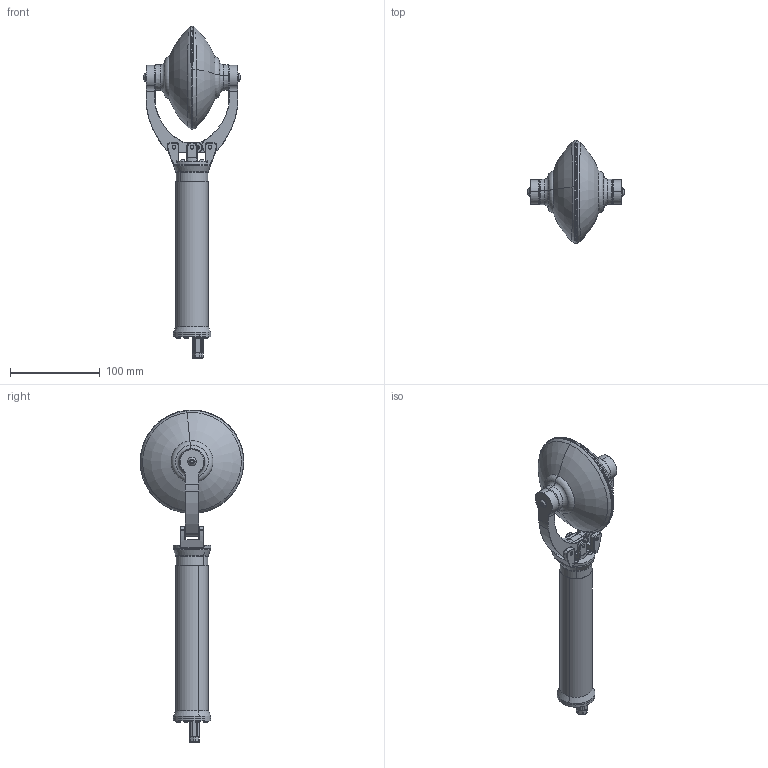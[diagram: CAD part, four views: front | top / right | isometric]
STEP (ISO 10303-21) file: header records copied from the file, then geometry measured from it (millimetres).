
FILE_DESCRIPTION (( 'STEP AP214' ), '1' );
FILE_NAME ('NEWTON-SEDIMENT-SAMPLER-PUBLIC.STEP', '2024-02-14T00:12:02', ( '' ), ( '' ), 'SwSTEP 2.0', 'SolidWorks 2024', '' );
FILE_SCHEMA (( 'AUTOMOTIVE_DESIGN' ));
Length unit declared in the file: millimetre
Products named in the file (17): ORING-021-BUNA-70A; NEWTON-M-HOUSING-PUBLIC--R3; Newton Sediment Sampler Cup_2135A16; M3X0.5-8-SS316-BUTTON-HEAD-CAP-SCREW; Newton-Sediment-Sampler-Cup-Mount; M4X0.7-8-SS316-BUTTON-HEAD-CAP-SCREW; WLP-M06-4.5MM-PUBLIC; NEWTON-Sediment-Sampler-P-Jaw-Inner_default; NEWTON-M-PISTON-PUBLIC; M5X0.8-16-SS316-BUTTON-HEAD-CAP-SCREW_94500A232; NEWTON-Sediment-Sampler-P-Jaw-Outer_Outer; NEWTON-GRIPPER-M-JAW-AXIAL-BEARING-SCREW-15-R3; NEWTON-GRIPPER-M-PUSHER-R3; NEWTON-M-FLANGE-CAP-R3; NEWTON-SEDIMENT-SAMPLER-PUBLIC; M3X0.5-6-BUTTON-HEAD-CAP-SCREW; NEWTON-GRIPPER-M-BASE-R4
Assembly tree (28 placements, depth 2):
  NEWTON-SEDIMENT-SAMPLER-PUBLIC
    NEWTON-GRIPPER-M-PUSHER-R3
    M4X0.7-8-SS316-BUTTON-HEAD-CAP-SCREW
    NEWTON-GRIPPER-M-JAW-AXIAL-BEARING-SCREW-15-R3  x3
    NEWTON-GRIPPER-M-BASE-R4
    M3X0.5-8-SS316-BUTTON-HEAD-CAP-SCREW  x4
    NEWTON-M-FLANGE-CAP-R3
    M3X0.5-6-BUTTON-HEAD-CAP-SCREW  x4
    ORING-021-BUNA-70A  x2
    NEWTON-M-HOUSING-PUBLIC--R3
    NEWTON-M-PISTON-PUBLIC
    WLP-M06-4.5MM-PUBLIC
    Newton Sediment Sampler Cup_2135A16  x2
    Newton-Sediment-Sampler-Cup-Mount  x2
    NEWTON-Sediment-Sampler-P-Jaw-Inner_default
    NEWTON-Sediment-Sampler-P-Jaw-Outer_Outer
    M5X0.8-16-SS316-BUTTON-HEAD-CAP-SCREW_94500A232  x2
Bounding box: 107.52 x 115.31 x 369.62 mm (x, y, z)
Volume: 247054.5 mm3; surface area: 144801.2 mm2
Topology: 30 solids, 30 shells, 1512 faces, 3687 edges, 2269 vertices
Faces by surface type: cylinder 659, cone 351, plane 345, torus 74, bspline 49, sphere 34
Entity records: 43787 total; most frequent: CARTESIAN_POINT 21307, DIRECTION 4631, ORIENTED_EDGE 4622, EDGE_CURVE 2311, AXIS2_PLACEMENT_3D 1841, VERTEX_POINT 1423, EDGE_LOOP 1072, ADVANCED_FACE 969
